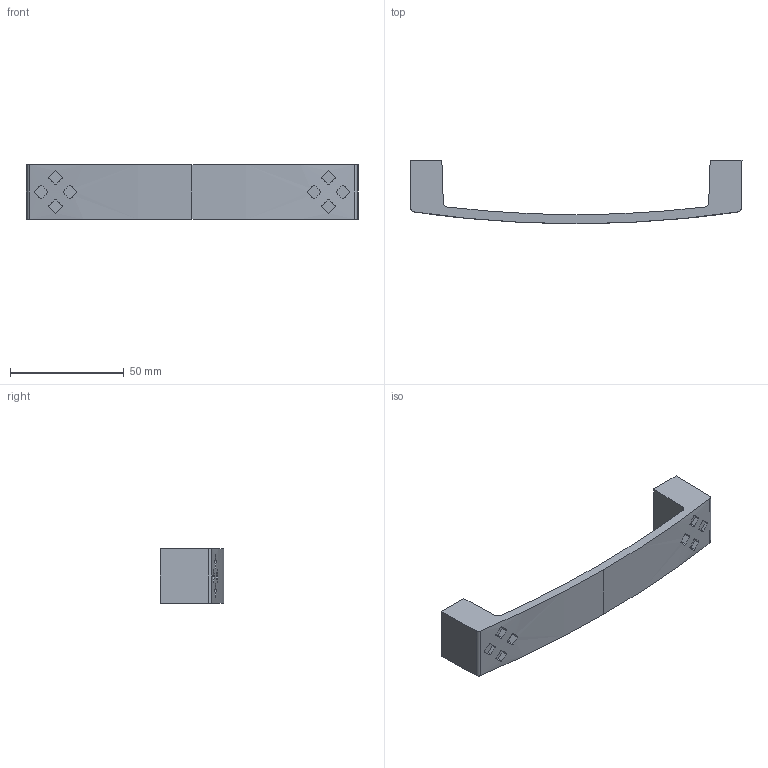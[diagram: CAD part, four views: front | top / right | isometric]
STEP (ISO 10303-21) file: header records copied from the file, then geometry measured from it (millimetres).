
FILE_DESCRIPTION( ( '' ), '1' );
FILE_NAME( 'C:/Documents and Settings/Nikhil/Desktop/Nik/Done/115267.stp', '2013-10-24T06:07:46', ( '' ), ( '' ), ' ', ' ', ' ' );
FILE_SCHEMA( ( 'automotive_design' ) );
Length unit declared in the file: millimetre
Products named in the file (1): 1
Bounding box: 146 x 28 x 24 mm (x, y, z)
Volume: 26610.6 mm3; surface area: 11818.7 mm2
Topology: 1 solids, 1 shells, 94 faces, 246 edges, 164 vertices
Faces by surface type: plane 50, cylinder 44
Entity records: 6020 total; most frequent: CARTESIAN_POINT 845, STYLED_ITEM 505, PRESENTATION_STYLE_ASSIGNMENT 505, COLOUR_RGB 505, DIRECTION 492, ORIENTED_EDGE 492, EDGE_CURVE 246, CURVE_STYLE 246
